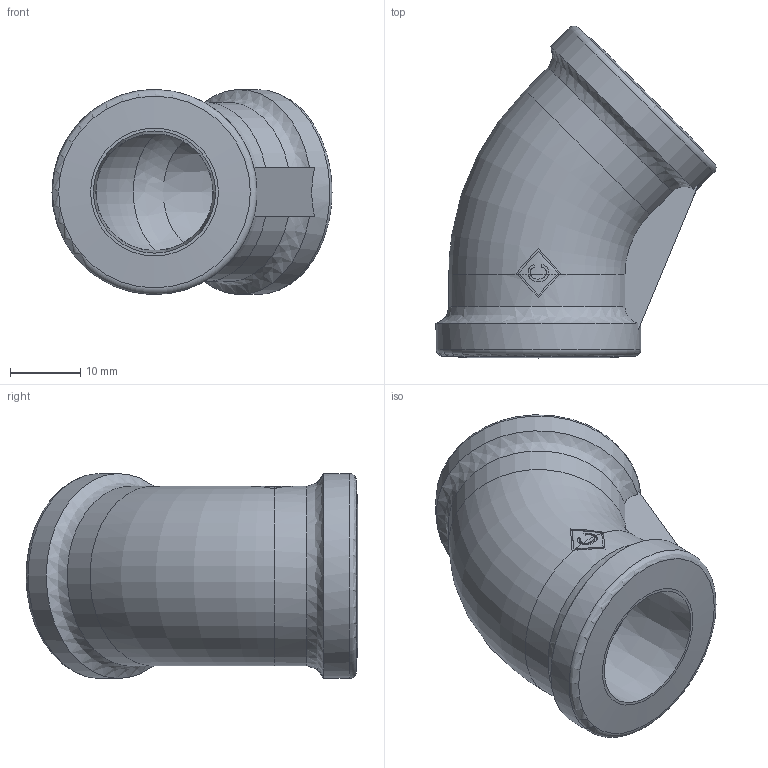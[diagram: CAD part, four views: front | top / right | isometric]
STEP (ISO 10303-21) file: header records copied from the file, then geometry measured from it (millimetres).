
FILE_DESCRIPTION((''),'2;1');
FILE_NAME('P:\Fastrack\53909_CRANE\Crane\Fig.155 45deg Elbow\New 0.50 inch\155-0.50x45.stp','2009-09-16T10:26:24',('btaylor'),(''),'Autodesk Inventor 2008','Autodesk Inventor 2008','');
FILE_SCHEMA(('AUTOMOTIVE_DESIGN { 1 0 10303 214 1 1 1 1 }'));
Length unit declared in the file: millimetre
Products named in the file (1): 155-0.50x45
Bounding box: 39.89 x 47.27 x 29.19 mm (x, y, z)
Volume: 12761.8 mm3; surface area: 7168.1 mm2
Topology: 1 solids, 1 shells, 47 faces, 132 edges, 87 vertices
Faces by surface type: plane 15, bspline 12, torus 8, cylinder 8, cone 4
Full cylindrical faces by diameter (mm): 29.2 x2
Entity records: 2728 total; most frequent: CARTESIAN_POINT 1620, ORIENTED_EDGE 242, DIRECTION 182, EDGE_CURVE 121, VERTEX_POINT 85, AXIS2_PLACEMENT_3D 77, EDGE_LOOP 58, B_SPLINE_CURVE_WITH_KNOTS 52
